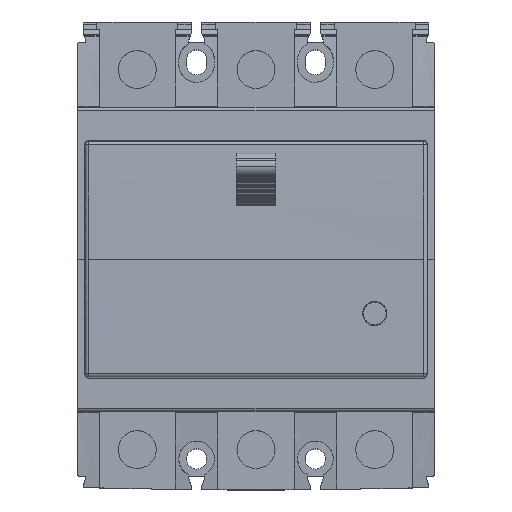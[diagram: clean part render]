
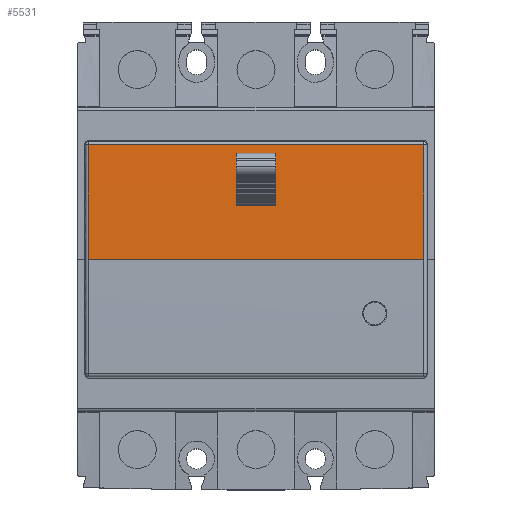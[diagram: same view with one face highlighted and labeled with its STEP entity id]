
A CAD part, top view. The second image highlights one B-rep face of the part: STEP entity #5531.
In plain terms, the highlighted cylindrical face has radius 1000.2 mm (diameter 2000.4 mm), a partial arc.
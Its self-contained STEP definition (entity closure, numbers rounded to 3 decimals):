
#116 = CARTESIAN_POINT ( 'NONE',  ( 87.969, -0.764, 53.2 ) ) ;
#146 = AXIS2_PLACEMENT_3D ( 'NONE', #1114, #911, #2156 ) ;
#306 = AXIS2_PLACEMENT_3D ( 'NONE', #9112, #13621, #11412 ) ;
#374 = EDGE_CURVE ( 'NONE', #9150, #2411, #8051, .T. ) ;
#436 = EDGE_CURVE ( 'NONE', #12783, #1919, #4915, .T. ) ;
#456 = DIRECTION ( 'NONE',  ( 0., 0., -1. ) ) ;
#526 = VERTEX_POINT ( 'NONE', #10549 ) ;
#729 = CARTESIAN_POINT ( 'NONE',  ( 35.3, -0.764, 53.2 ) ) ;
#739 = VECTOR ( 'NONE', #885, 1000. ) ;
#753 = FACE_BOUND ( 'NONE', #14656, .T. ) ;
#759 = CIRCLE ( 'NONE', #4753, 1000.2 ) ;
#853 = CARTESIAN_POINT ( 'NONE',  ( -4.2, 12.076, 53.118 ) ) ;
#884 = VERTEX_POINT ( 'NONE', #7197 ) ;
#885 = DIRECTION ( 'NONE',  ( -1., 0., 0. ) ) ;
#911 = DIRECTION ( 'NONE',  ( 1., 0., 0. ) ) ;
#991 = VERTEX_POINT ( 'NONE', #8667 ) ;
#1114 = CARTESIAN_POINT ( 'NONE',  ( -35.3, -0.764, -947. ) ) ;
#1441 = ORIENTED_EDGE ( 'NONE', *, *, #6442, .T. ) ;
#1647 = EDGE_LOOP ( 'NONE', ( #11206, #4811, #8121, #13218 ) ) ;
#1768 = VECTOR ( 'NONE', #13243, 1000. ) ;
#1789 = DIRECTION ( 'NONE',  ( 1., 0., 0. ) ) ;
#1837 = CARTESIAN_POINT ( 'NONE',  ( 4.2, 15.182, 53.073 ) ) ;
#1919 = VERTEX_POINT ( 'NONE', #8818 ) ;
#2026 = CIRCLE ( 'NONE', #8066, 1000.2 ) ;
#2116 = EDGE_CURVE ( 'NONE', #7631, #2337, #11430, .T. ) ;
#2156 = DIRECTION ( 'NONE',  ( 0., 0., -1. ) ) ;
#2164 = CARTESIAN_POINT ( 'NONE',  ( -4.2, 16.901, 53.044 ) ) ;
#2293 = DIRECTION ( 'NONE',  ( 1., 0., 0. ) ) ;
#2337 = VERTEX_POINT ( 'NONE', #5595 ) ;
#2411 = VERTEX_POINT ( 'NONE', #12245 ) ;
#2465 = VERTEX_POINT ( 'NONE', #7848 ) ;
#2545 = VECTOR ( 'NONE', #11675, 1000. ) ;
#2938 = VERTEX_POINT ( 'NONE', #7477 ) ;
#3153 = ORIENTED_EDGE ( 'NONE', *, *, #7503, .T. ) ;
#3262 = CARTESIAN_POINT ( 'NONE',  ( 1., 12.076, 53.118 ) ) ;
#3296 = DIRECTION ( 'NONE',  ( 0., 0., -1. ) ) ;
#3427 = CARTESIAN_POINT ( 'NONE',  ( 4.2, 12.076, 53.118 ) ) ;
#3490 = VECTOR ( 'NONE', #13899, 1000. ) ;
#3629 = CARTESIAN_POINT ( 'NONE',  ( 4.2, 15.182, 53.073 ) ) ;
#3800 = AXIS2_PLACEMENT_3D ( 'NONE', #12388, #13698, #6909 ) ;
#3804 = LINE ( 'NONE', #3427, #12418 ) ;
#4249 = DIRECTION ( 'NONE',  ( 1., 0., 0. ) ) ;
#4618 = LINE ( 'NONE', #12114, #1768 ) ;
#4753 = AXIS2_PLACEMENT_3D ( 'NONE', #8800, #8661, #8711 ) ;
#4759 = ORIENTED_EDGE ( 'NONE', *, *, #5370, .F. ) ;
#4811 = ORIENTED_EDGE ( 'NONE', *, *, #7201, .T. ) ;
#4874 = DIRECTION ( 'NONE',  ( 1., 0., 0. ) ) ;
#4915 = CIRCLE ( 'NONE', #11657, 1000.2 ) ;
#5067 = EDGE_CURVE ( 'NONE', #7727, #2938, #9602, .T. ) ;
#5138 = EDGE_CURVE ( 'NONE', #14581, #2465, #2026, .T. ) ;
#5169 = ORIENTED_EDGE ( 'NONE', *, *, #10912, .F. ) ;
#5370 = EDGE_CURVE ( 'NONE', #1919, #13968, #3804, .T. ) ;
#5520 = AXIS2_PLACEMENT_3D ( 'NONE', #7523, #4249, #12038 ) ;
#5531 = ADVANCED_FACE ( 'NONE', ( #13118, #753 ), #6234, .T. ) ;
#5545 = ORIENTED_EDGE ( 'NONE', *, *, #13423, .F. ) ;
#5595 = CARTESIAN_POINT ( 'NONE',  ( -35.3, 23.325, 52.91 ) ) ;
#5686 = ORIENTED_EDGE ( 'NONE', *, *, #14216, .T. ) ;
#5804 = DIRECTION ( 'NONE',  ( -1., 0., 0. ) ) ;
#5948 = ORIENTED_EDGE ( 'NONE', *, *, #11876, .T. ) ;
#6065 = VECTOR ( 'NONE', #7571, 1000. ) ;
#6234 = CYLINDRICAL_SURFACE ( 'NONE', #10933, 1000.2 ) ;
#6393 = CIRCLE ( 'NONE', #306, 1000.2 ) ;
#6442 = EDGE_CURVE ( 'NONE', #12783, #2465, #7258, .T. ) ;
#6594 = LINE ( 'NONE', #11127, #9078 ) ;
#6624 = CARTESIAN_POINT ( 'NONE',  ( 35.3, 23.325, 52.91 ) ) ;
#6896 = CIRCLE ( 'NONE', #3800, 1000.2 ) ;
#6909 = DIRECTION ( 'NONE',  ( 0., 0., -1. ) ) ;
#7043 = DIRECTION ( 'NONE',  ( -1., 0., 0. ) ) ;
#7171 = CARTESIAN_POINT ( 'NONE',  ( -1., -0.764, -947. ) ) ;
#7197 = CARTESIAN_POINT ( 'NONE',  ( 1., 15.182, 53.073 ) ) ;
#7201 = EDGE_CURVE ( 'NONE', #9150, #7631, #6896, .T. ) ;
#7254 = CARTESIAN_POINT ( 'NONE',  ( -1., 15.182, 53.073 ) ) ;
#7258 = LINE ( 'NONE', #1837, #739 ) ;
#7402 = AXIS2_PLACEMENT_3D ( 'NONE', #10092, #2293, #3296 ) ;
#7477 = CARTESIAN_POINT ( 'NONE',  ( -4.2, 10.52, 53.136 ) ) ;
#7503 = EDGE_CURVE ( 'NONE', #11490, #884, #4618, .T. ) ;
#7523 = CARTESIAN_POINT ( 'NONE',  ( -4.2, -0.764, -947. ) ) ;
#7571 = DIRECTION ( 'NONE',  ( -1., 0., 0. ) ) ;
#7631 = VERTEX_POINT ( 'NONE', #6624 ) ;
#7727 = VERTEX_POINT ( 'NONE', #10244 ) ;
#7848 = CARTESIAN_POINT ( 'NONE',  ( -4.2, 15.182, 53.073 ) ) ;
#8051 = LINE ( 'NONE', #116, #9316 ) ;
#8066 = AXIS2_PLACEMENT_3D ( 'NONE', #9287, #1789, #456 ) ;
#8121 = ORIENTED_EDGE ( 'NONE', *, *, #2116, .T. ) ;
#8269 = DIRECTION ( 'NONE',  ( 0., 0., 1. ) ) ;
#8405 = EDGE_CURVE ( 'NONE', #2337, #2411, #11296, .T. ) ;
#8661 = DIRECTION ( 'NONE',  ( 1., 0., 0. ) ) ;
#8667 = CARTESIAN_POINT ( 'NONE',  ( 4.2, 16.901, 53.044 ) ) ;
#8711 = DIRECTION ( 'NONE',  ( 0., 0., -1. ) ) ;
#8800 = CARTESIAN_POINT ( 'NONE',  ( 4.2, -0.764, -947. ) ) ;
#8818 = CARTESIAN_POINT ( 'NONE',  ( -1., 12.076, 53.118 ) ) ;
#9078 = VECTOR ( 'NONE', #14571, 1000. ) ;
#9112 = CARTESIAN_POINT ( 'NONE',  ( 4.2, -0.764, -947. ) ) ;
#9150 = VERTEX_POINT ( 'NONE', #729 ) ;
#9287 = CARTESIAN_POINT ( 'NONE',  ( -4.2, -0.764, -947. ) ) ;
#9316 = VECTOR ( 'NONE', #5804, 1000. ) ;
#9372 = CARTESIAN_POINT ( 'NONE',  ( 87.969, -0.764, -947. ) ) ;
#9602 = LINE ( 'NONE', #12803, #2545 ) ;
#9778 = ORIENTED_EDGE ( 'NONE', *, *, #11799, .F. ) ;
#9808 = CARTESIAN_POINT ( 'NONE',  ( 4.2, 12.076, 53.118 ) ) ;
#10092 = CARTESIAN_POINT ( 'NONE',  ( 1., -0.764, -947. ) ) ;
#10244 = CARTESIAN_POINT ( 'NONE',  ( 4.2, 10.52, 53.136 ) ) ;
#10471 = ORIENTED_EDGE ( 'NONE', *, *, #5138, .F. ) ;
#10507 = CARTESIAN_POINT ( 'NONE',  ( 87.969, 23.325, 52.91 ) ) ;
#10549 = CARTESIAN_POINT ( 'NONE',  ( 4.2, 12.076, 53.118 ) ) ;
#10912 = EDGE_CURVE ( 'NONE', #991, #14581, #6594, .T. ) ;
#10933 = AXIS2_PLACEMENT_3D ( 'NONE', #9372, #7043, #8269 ) ;
#11127 = CARTESIAN_POINT ( 'NONE',  ( 4.2, 16.901, 53.044 ) ) ;
#11206 = ORIENTED_EDGE ( 'NONE', *, *, #374, .F. ) ;
#11296 = CIRCLE ( 'NONE', #146, 1000.2 ) ;
#11412 = DIRECTION ( 'NONE',  ( 0., 0., -1. ) ) ;
#11430 = LINE ( 'NONE', #10507, #3490 ) ;
#11490 = VERTEX_POINT ( 'NONE', #3629 ) ;
#11654 = CIRCLE ( 'NONE', #7402, 1000.2 ) ;
#11657 = AXIS2_PLACEMENT_3D ( 'NONE', #7171, #4874, #12605 ) ;
#11675 = DIRECTION ( 'NONE',  ( -1., 0., 0. ) ) ;
#11799 = EDGE_CURVE ( 'NONE', #526, #14504, #13124, .T. ) ;
#11876 = EDGE_CURVE ( 'NONE', #991, #11490, #759, .T. ) ;
#12038 = DIRECTION ( 'NONE',  ( 0., 0., -1. ) ) ;
#12114 = CARTESIAN_POINT ( 'NONE',  ( 4.2, 15.182, 53.073 ) ) ;
#12137 = EDGE_CURVE ( 'NONE', #526, #7727, #6393, .T. ) ;
#12245 = CARTESIAN_POINT ( 'NONE',  ( -35.3, -0.764, 53.2 ) ) ;
#12388 = CARTESIAN_POINT ( 'NONE',  ( 35.3, -0.764, -947. ) ) ;
#12418 = VECTOR ( 'NONE', #14551, 1000. ) ;
#12605 = DIRECTION ( 'NONE',  ( 0., 0., -1. ) ) ;
#12783 = VERTEX_POINT ( 'NONE', #7254 ) ;
#12803 = CARTESIAN_POINT ( 'NONE',  ( 4.2, 10.52, 53.136 ) ) ;
#12968 = ORIENTED_EDGE ( 'NONE', *, *, #5067, .T. ) ;
#13118 = FACE_OUTER_BOUND ( 'NONE', #1647, .T. ) ;
#13124 = LINE ( 'NONE', #9808, #6065 ) ;
#13218 = ORIENTED_EDGE ( 'NONE', *, *, #8405, .T. ) ;
#13243 = DIRECTION ( 'NONE',  ( -1., 0., 0. ) ) ;
#13423 = EDGE_CURVE ( 'NONE', #13968, #2938, #14290, .T. ) ;
#13445 = ORIENTED_EDGE ( 'NONE', *, *, #436, .F. ) ;
#13621 = DIRECTION ( 'NONE',  ( 1., 0., 0. ) ) ;
#13698 = DIRECTION ( 'NONE',  ( -1., 0., 0. ) ) ;
#13804 = ORIENTED_EDGE ( 'NONE', *, *, #12137, .T. ) ;
#13899 = DIRECTION ( 'NONE',  ( -1., 0., 0. ) ) ;
#13968 = VERTEX_POINT ( 'NONE', #853 ) ;
#14216 = EDGE_CURVE ( 'NONE', #884, #14504, #11654, .T. ) ;
#14290 = CIRCLE ( 'NONE', #5520, 1000.2 ) ;
#14504 = VERTEX_POINT ( 'NONE', #3262 ) ;
#14551 = DIRECTION ( 'NONE',  ( -1., 0., 0. ) ) ;
#14571 = DIRECTION ( 'NONE',  ( -1., 0., 0. ) ) ;
#14581 = VERTEX_POINT ( 'NONE', #2164 ) ;
#14656 = EDGE_LOOP ( 'NONE', ( #3153, #5686, #9778, #13804, #12968, #5545, #4759, #13445, #1441, #10471, #5169, #5948 ) ) ;
